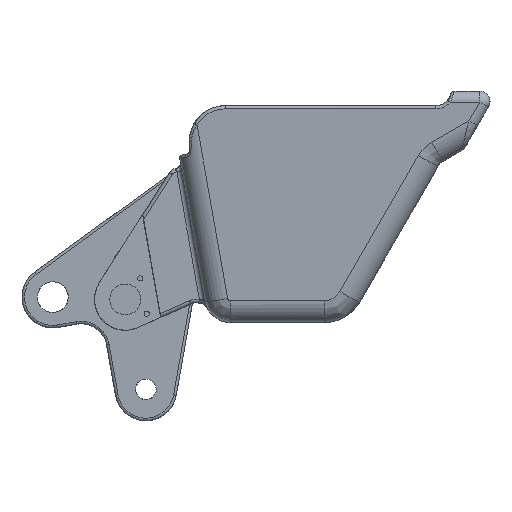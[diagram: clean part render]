
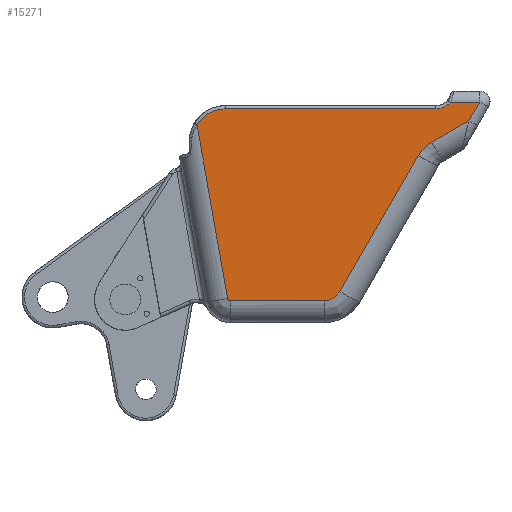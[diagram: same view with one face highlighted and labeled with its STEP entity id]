
A CAD part, left-side view. The second image highlights one B-rep face of the part: STEP entity #15271.
In plain terms, the highlighted planar face has unit normal (-0.999, 0, -0.052).
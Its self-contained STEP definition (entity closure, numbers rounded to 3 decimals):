
#14013=CARTESIAN_POINT('Vertex',(-713.037,-139.472,339.55)) ;
#14542=CARTESIAN_POINT('Control Point',(-713.037,-139.472,339.55)) ;
#14543=CARTESIAN_POINT('Control Point',(-713.137,-140.611,341.453)) ;
#14544=CARTESIAN_POINT('Control Point',(-713.234,-141.832,343.307)) ;
#14545=CARTESIAN_POINT('Control Point',(-713.329,-143.133,345.106)) ;
#14546=CARTESIAN_POINT('Control Point',(-713.693,-148.639,352.067)) ;
#14547=CARTESIAN_POINT('Control Point',(-714.006,-155.308,358.025)) ;
#14548=CARTESIAN_POINT('Control Point',(-714.204,-160.865,361.815)) ;
#14549=CARTESIAN_POINT('Control Point',(-714.466,-170.753,366.812)) ;
#14550=CARTESIAN_POINT('Control Point',(-714.611,-181.426,369.585)) ;
#14551=CARTESIAN_POINT('Control Point',(-714.65,-185.72,370.319)) ;
#14552=CARTESIAN_POINT('Control Point',(-714.669,-190.055,370.686)) ;
#14553=CARTESIAN_POINT('Control Point',(-714.669,-194.39,370.686)) ;
#14554=CARTESIAN_POINT('Vertex',(-714.669,-194.39,370.686)) ;
#15151=CARTESIAN_POINT('Line Origine',(-714.669,-413.631,370.686)) ;
#15155=CARTESIAN_POINT('Vertex',(-714.669,-604.,370.686)) ;
#15177=CARTESIAN_POINT('Axis2P3D Location',(-715.,-194.39,377.)) ;
#15183=CARTESIAN_POINT('Control Point',(-713.037,-139.472,339.55)) ;
#15184=CARTESIAN_POINT('Control Point',(-695.335,-199.031,1.777)) ;
#15185=CARTESIAN_POINT('Vertex',(-695.335,-199.031,1.777)) ;
#15189=CARTESIAN_POINT('Control Point',(-695.335,-199.031,1.777)) ;
#15190=CARTESIAN_POINT('Control Point',(-695.263,-199.273,0.402)) ;
#15191=CARTESIAN_POINT('Control Point',(-695.196,-199.996,-0.89)) ;
#15192=CARTESIAN_POINT('Control Point',(-695.144,-201.162,-1.868)) ;
#15193=CARTESIAN_POINT('Control Point',(-695.119,-202.558,-2.355)) ;
#15194=CARTESIAN_POINT('Control Point',(-695.119,-203.955,-2.355)) ;
#15195=CARTESIAN_POINT('Vertex',(-695.119,-203.955,-2.355)) ;
#15198=CARTESIAN_POINT('Line Origine',(-695.119,-407.019,-2.355)) ;
#15202=CARTESIAN_POINT('Vertex',(-695.119,-386.812,-2.355)) ;
#15206=CARTESIAN_POINT('Control Point',(-695.119,-386.812,-2.355)) ;
#15207=CARTESIAN_POINT('Control Point',(-695.119,-394.143,-2.355)) ;
#15208=CARTESIAN_POINT('Control Point',(-695.219,-401.474,-0.438)) ;
#15209=CARTESIAN_POINT('Control Point',(-695.421,-408.135,3.41)) ;
#15210=CARTESIAN_POINT('Control Point',(-695.703,-413.458,8.798)) ;
#15211=CARTESIAN_POINT('Control Point',(-696.036,-417.123,15.145)) ;
#15212=CARTESIAN_POINT('Vertex',(-696.036,-417.123,15.145)) ;
#15216=CARTESIAN_POINT('Control Point',(-696.036,-417.123,15.145)) ;
#15217=CARTESIAN_POINT('Control Point',(-709.904,-569.899,279.76)) ;
#15218=CARTESIAN_POINT('Vertex',(-709.904,-569.899,279.76)) ;
#15222=CARTESIAN_POINT('Control Point',(-711.247,-595.52,305.382)) ;
#15223=CARTESIAN_POINT('Control Point',(-711.006,-587.58,300.798)) ;
#15224=CARTESIAN_POINT('Control Point',(-710.694,-580.442,294.827)) ;
#15225=CARTESIAN_POINT('Control Point',(-710.32,-574.477,287.691)) ;
#15226=CARTESIAN_POINT('Control Point',(-709.904,-569.899,279.76)) ;
#15227=CARTESIAN_POINT('Vertex',(-711.247,-595.52,305.382)) ;
#15231=CARTESIAN_POINT('Control Point',(-711.247,-595.52,305.382)) ;
#15232=CARTESIAN_POINT('Control Point',(-713.446,-668.21,347.35)) ;
#15233=CARTESIAN_POINT('Vertex',(-713.446,-668.21,347.35)) ;
#15237=CARTESIAN_POINT('Control Point',(-713.446,-668.21,347.35)) ;
#15238=CARTESIAN_POINT('Control Point',(-715.364,-689.344,383.953)) ;
#15239=CARTESIAN_POINT('Vertex',(-715.364,-689.344,383.953)) ;
#15242=CARTESIAN_POINT('Line Origine',(-715.364,-407.019,383.953)) ;
#15246=CARTESIAN_POINT('Vertex',(-715.364,-631.915,383.953)) ;
#15250=CARTESIAN_POINT('Control Point',(-715.364,-631.915,383.953)) ;
#15251=CARTESIAN_POINT('Control Point',(-715.105,-627.883,379.002)) ;
#15252=CARTESIAN_POINT('Control Point',(-714.892,-622.752,374.943)) ;
#15253=CARTESIAN_POINT('Control Point',(-714.743,-616.783,372.104)) ;
#15254=CARTESIAN_POINT('Control Point',(-714.669,-610.391,370.686)) ;
#15255=CARTESIAN_POINT('Control Point',(-714.669,-604.,370.686)) ;
#15153=VECTOR('Line Direction',#15152,1.) ;
#15200=VECTOR('Line Direction',#15199,1.) ;
#15244=VECTOR('Line Direction',#15243,1.) ;
#15152=DIRECTION('Vector Direction',(0.,1.,0.)) ;
#15178=DIRECTION('Axis2P3D Direction',(-0.999,-0.,-0.052)) ;
#15179=DIRECTION('Axis2P3D XDirection',(0.,-1.,0.)) ;
#15199=DIRECTION('Vector Direction',(0.,-1.,0.)) ;
#15243=DIRECTION('Vector Direction',(0.,-1.,0.)) ;
#15180=AXIS2_PLACEMENT_3D('Plane Axis2P3D',#15177,#15178,#15179) ;
#15154=LINE('Line',#15151,#15153) ;
#15201=LINE('Line',#15198,#15200) ;
#15245=LINE('Line',#15242,#15244) ;
#15181=PLANE('',#15180) ;
#14556=EDGE_CURVE('',#14014,#14555,#14541,.T.) ;
#15157=EDGE_CURVE('',#14555,#15156,#15154,.F.) ;
#15187=EDGE_CURVE('',#14014,#15186,#15182,.T.) ;
#15197=EDGE_CURVE('',#15186,#15196,#15188,.T.) ;
#15204=EDGE_CURVE('',#15196,#15203,#15201,.T.) ;
#15214=EDGE_CURVE('',#15203,#15213,#15205,.T.) ;
#15220=EDGE_CURVE('',#15213,#15219,#15215,.T.) ;
#15229=EDGE_CURVE('',#15219,#15228,#15221,.F.) ;
#15235=EDGE_CURVE('',#15228,#15234,#15230,.T.) ;
#15241=EDGE_CURVE('',#15234,#15240,#15236,.T.) ;
#15248=EDGE_CURVE('',#15240,#15247,#15245,.F.) ;
#15256=EDGE_CURVE('',#15156,#15247,#15249,.F.) ;
#15257=EDGE_LOOP('',(#15258,#15259,#15260,#15261,#15262,#15263,#15264,#15265,#15266,#15267,#15268,#15269)) ;
#15258=ORIENTED_EDGE('',*,*,#15187,.T.) ;
#15259=ORIENTED_EDGE('',*,*,#15197,.T.) ;
#15260=ORIENTED_EDGE('',*,*,#15204,.T.) ;
#15261=ORIENTED_EDGE('',*,*,#15214,.T.) ;
#15262=ORIENTED_EDGE('',*,*,#15220,.T.) ;
#15263=ORIENTED_EDGE('',*,*,#15229,.T.) ;
#15264=ORIENTED_EDGE('',*,*,#15235,.T.) ;
#15265=ORIENTED_EDGE('',*,*,#15241,.T.) ;
#15266=ORIENTED_EDGE('',*,*,#15248,.T.) ;
#15267=ORIENTED_EDGE('',*,*,#15256,.F.) ;
#15268=ORIENTED_EDGE('',*,*,#15157,.F.) ;
#15269=ORIENTED_EDGE('',*,*,#14556,.F.) ;
#14014=VERTEX_POINT('',#14013) ;
#14555=VERTEX_POINT('',#14554) ;
#15156=VERTEX_POINT('',#15155) ;
#15186=VERTEX_POINT('',#15185) ;
#15196=VERTEX_POINT('',#15195) ;
#15203=VERTEX_POINT('',#15202) ;
#15213=VERTEX_POINT('',#15212) ;
#15219=VERTEX_POINT('',#15218) ;
#15228=VERTEX_POINT('',#15227) ;
#15234=VERTEX_POINT('',#15233) ;
#15240=VERTEX_POINT('',#15239) ;
#15247=VERTEX_POINT('',#15246) ;
#15271=ADVANCED_FACE('PartBody',(#15270),#15181,.T.) ;
#14541=B_SPLINE_CURVE_WITH_KNOTS('',5,(#14542,#14543,#14544,#14545,#14546,#14547,#14548,#14549,#14550,#14551,#14552,#14553),.UNSPECIFIED.,.F.,.U.,(6,3,3,6),(274.799,291.246,340.549,372.674),.UNSPECIFIED.) ;
#15182=B_SPLINE_CURVE_WITH_KNOTS('',1,(#15183,#15184),.UNSPECIFIED.,.F.,.U.,(2,2),(-162.526,180.914),.UNSPECIFIED.) ;
#15188=B_SPLINE_CURVE_WITH_KNOTS('',5,(#15189,#15190,#15191,#15192,#15193,#15194),.UNSPECIFIED.,.F.,.U.,(6,6),(122.808,192.986),.UNSPECIFIED.) ;
#15205=B_SPLINE_CURVE_WITH_KNOTS('',5,(#15206,#15207,#15208,#15209,#15210,#15211),.UNSPECIFIED.,.F.,.U.,(6,6),(228.683,320.147),.UNSPECIFIED.) ;
#15215=B_SPLINE_CURVE_WITH_KNOTS('',1,(#15216,#15217),.UNSPECIFIED.,.F.,.U.,(2,2),(-190.214,115.652),.UNSPECIFIED.) ;
#15221=B_SPLINE_CURVE_WITH_KNOTS('',4,(#15222,#15223,#15224,#15225,#15226),.UNSPECIFIED.,.F.,.U.,(5,5),(214.324,253.29),.UNSPECIFIED.) ;
#15230=B_SPLINE_CURVE_WITH_KNOTS('',1,(#15231,#15232),.UNSPECIFIED.,.F.,.U.,(2,2),(217.654,301.618),.UNSPECIFIED.) ;
#15236=B_SPLINE_CURVE_WITH_KNOTS('',1,(#15237,#15238),.UNSPECIFIED.,.F.,.U.,(2,2),(169.061,211.371),.UNSPECIFIED.) ;
#15249=B_SPLINE_CURVE_WITH_KNOTS('',5,(#15250,#15251,#15252,#15253,#15254,#15255),.UNSPECIFIED.,.F.,.U.,(6,6),(140.994,182.592),.UNSPECIFIED.) ;
#15270=FACE_OUTER_BOUND('',#15257,.T.) ;
